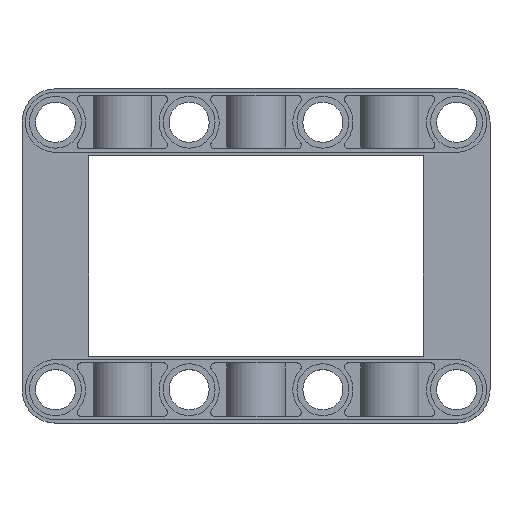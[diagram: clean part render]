
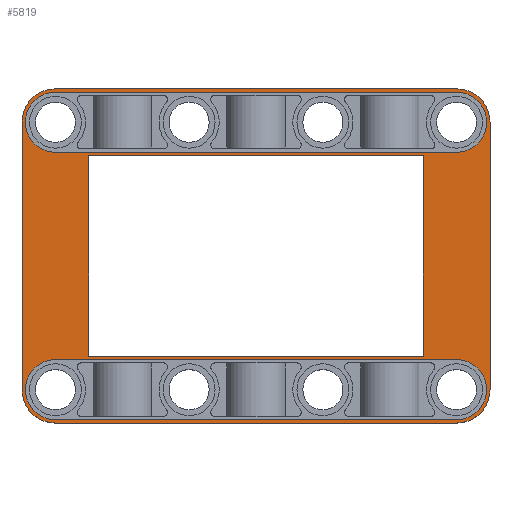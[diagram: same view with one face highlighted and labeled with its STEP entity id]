
A CAD part, top view. The second image highlights one B-rep face of the part: STEP entity #5819.
In plain terms, the highlighted planar face has unit normal (0, 0, 1).
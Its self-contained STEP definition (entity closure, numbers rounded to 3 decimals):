
#134=PLANE('',#6480);
#204=LINE('',#8612,#660);
#468=LINE('',#9739,#924);
#473=LINE('',#9754,#929);
#478=LINE('',#9769,#934);
#481=LINE('',#9777,#937);
#497=LINE('',#9825,#953);
#502=LINE('',#9838,#958);
#506=LINE('',#9853,#962);
#511=LINE('',#9869,#967);
#515=LINE('',#9880,#971);
#524=LINE('',#9895,#980);
#525=LINE('',#9897,#981);
#660=VECTOR('',#6769,1000.);
#924=VECTOR('',#7907,1000.);
#929=VECTOR('',#7920,1000.);
#934=VECTOR('',#7937,1000.);
#937=VECTOR('',#7946,1000.);
#953=VECTOR('',#7998,1000.);
#958=VECTOR('',#8007,1000.);
#962=VECTOR('',#8021,1000.);
#967=VECTOR('',#8040,1000.);
#971=VECTOR('',#8052,1000.);
#980=VECTOR('',#8063,1000.);
#981=VECTOR('',#8064,1000.);
#2145=ORIENTED_EDGE('',*,*,#3309,.T.);
#2146=ORIENTED_EDGE('',*,*,#3306,.T.);
#2147=ORIENTED_EDGE('',*,*,#3302,.T.);
#2148=ORIENTED_EDGE('',*,*,#3312,.T.);
#2149=ORIENTED_EDGE('',*,*,#3317,.T.);
#2150=ORIENTED_EDGE('',*,*,#3314,.T.);
#2151=ORIENTED_EDGE('',*,*,#3321,.T.);
#2152=ORIENTED_EDGE('',*,*,#3319,.T.);
#2153=ORIENTED_EDGE('',*,*,#3380,.F.);
#2154=ORIENTED_EDGE('',*,*,#3343,.F.);
#2155=ORIENTED_EDGE('',*,*,#3371,.F.);
#2156=ORIENTED_EDGE('',*,*,#3381,.F.);
#2157=ORIENTED_EDGE('',*,*,#3367,.T.);
#2158=ORIENTED_EDGE('',*,*,#3349,.T.);
#2159=ORIENTED_EDGE('',*,*,#3353,.T.);
#2160=ORIENTED_EDGE('',*,*,#3356,.T.);
#2161=ORIENTED_EDGE('',*,*,#3359,.T.);
#2162=ORIENTED_EDGE('',*,*,#2778,.T.);
#2163=ORIENTED_EDGE('',*,*,#3362,.T.);
#2164=ORIENTED_EDGE('',*,*,#3365,.T.);
#2778=EDGE_CURVE('',#3579,#3578,#204,.T.);
#3302=EDGE_CURVE('',#4005,#4006,#468,.T.);
#3306=EDGE_CURVE('',#4009,#4005,#4402,.F.);
#3309=EDGE_CURVE('',#4011,#4009,#473,.T.);
#3312=EDGE_CURVE('',#4006,#4011,#4404,.F.);
#3314=EDGE_CURVE('',#4013,#4014,#4406,.F.);
#3317=EDGE_CURVE('',#4015,#4013,#478,.T.);
#3319=EDGE_CURVE('',#4016,#4015,#4407,.F.);
#3321=EDGE_CURVE('',#4014,#4016,#481,.T.);
#3343=EDGE_CURVE('',#4030,#4031,#497,.T.);
#3349=EDGE_CURVE('',#4037,#4036,#502,.T.);
#3353=EDGE_CURVE('',#4036,#4039,#4416,.T.);
#3356=EDGE_CURVE('',#4039,#4041,#506,.T.);
#3359=EDGE_CURVE('',#4041,#3579,#4419,.T.);
#3362=EDGE_CURVE('',#3578,#4044,#4421,.T.);
#3365=EDGE_CURVE('',#4044,#4046,#511,.T.);
#3367=EDGE_CURVE('',#4046,#4037,#4423,.T.);
#3371=EDGE_CURVE('',#4049,#4030,#515,.T.);
#3380=EDGE_CURVE('',#4031,#4055,#524,.T.);
#3381=EDGE_CURVE('',#4055,#4049,#525,.T.);
#3578=VERTEX_POINT('',#8611);
#3579=VERTEX_POINT('',#8613);
#4005=VERTEX_POINT('',#9740);
#4006=VERTEX_POINT('',#9741);
#4009=VERTEX_POINT('',#9749);
#4011=VERTEX_POINT('',#9755);
#4013=VERTEX_POINT('',#9764);
#4014=VERTEX_POINT('',#9765);
#4015=VERTEX_POINT('',#9770);
#4016=VERTEX_POINT('',#9774);
#4030=VERTEX_POINT('',#9824);
#4031=VERTEX_POINT('',#9826);
#4036=VERTEX_POINT('',#9837);
#4037=VERTEX_POINT('',#9839);
#4039=VERTEX_POINT('',#9845);
#4041=VERTEX_POINT('',#9851);
#4044=VERTEX_POINT('',#9862);
#4046=VERTEX_POINT('',#9868);
#4049=VERTEX_POINT('',#9879);
#4055=VERTEX_POINT('',#9896);
#4402=CIRCLE('',#6432,3.6);
#4404=CIRCLE('',#6436,3.6);
#4406=CIRCLE('',#6439,3.6);
#4407=CIRCLE('',#6442,3.6);
#4416=CIRCLE('',#6466,4.);
#4419=CIRCLE('',#6471,4.);
#4421=CIRCLE('',#6474,4.);
#4423=CIRCLE('',#6478,4.);
#4809=EDGE_LOOP('',(#2145,#2146,#2147,#2148));
#4810=EDGE_LOOP('',(#2149,#2150,#2151,#2152));
#4811=EDGE_LOOP('',(#2153,#2154,#2155,#2156));
#4812=EDGE_LOOP('',(#2157,#2158,#2159,#2160,#2161,#2162,#2163,#2164));
#5281=FACE_BOUND('',#4809,.T.);
#5282=FACE_BOUND('',#4810,.T.);
#5283=FACE_BOUND('',#4811,.T.);
#5284=FACE_BOUND('',#4812,.T.);
#5819=ADVANCED_FACE('',(#5281,#5282,#5283,#5284),#134,.T.);
#6432=AXIS2_PLACEMENT_3D('',#9748,#7913,#7914);
#6436=AXIS2_PLACEMENT_3D('',#9760,#7925,#7926);
#6439=AXIS2_PLACEMENT_3D('',#9763,#7931,#7932);
#6442=AXIS2_PLACEMENT_3D('',#9773,#7941,#7942);
#6466=AXIS2_PLACEMENT_3D('',#9846,#8014,#8015);
#6471=AXIS2_PLACEMENT_3D('',#9857,#8027,#8028);
#6474=AXIS2_PLACEMENT_3D('',#9863,#8034,#8035);
#6478=AXIS2_PLACEMENT_3D('',#9872,#8045,#8046);
#6480=AXIS2_PLACEMENT_3D('',#9894,#8061,#8062);
#6769=DIRECTION('',(0.,-1.,0.));
#7907=DIRECTION('',(-1.,0.,0.));
#7913=DIRECTION('',(0.,0.,1.));
#7914=DIRECTION('',(1.,0.,0.));
#7920=DIRECTION('',(1.,0.,0.));
#7925=DIRECTION('',(0.,0.,1.));
#7926=DIRECTION('',(1.,0.,0.));
#7931=DIRECTION('',(0.,0.,1.));
#7932=DIRECTION('',(1.,0.,0.));
#7937=DIRECTION('',(-1.,0.,0.));
#7941=DIRECTION('',(0.,0.,1.));
#7942=DIRECTION('',(1.,0.,0.));
#7946=DIRECTION('',(1.,0.,0.));
#7998=DIRECTION('',(1.,0.,0.));
#8007=DIRECTION('',(0.,1.,0.));
#8014=DIRECTION('',(0.,0.,1.));
#8015=DIRECTION('',(-1.,0.,0.));
#8021=DIRECTION('',(-1.,0.,0.));
#8027=DIRECTION('',(0.,0.,1.));
#8028=DIRECTION('',(1.,0.,0.));
#8034=DIRECTION('',(0.,0.,1.));
#8035=DIRECTION('',(1.,0.,0.));
#8040=DIRECTION('',(1.,0.,0.));
#8045=DIRECTION('',(0.,0.,1.));
#8046=DIRECTION('',(-1.,0.,0.));
#8052=DIRECTION('',(0.,-1.,0.));
#8061=DIRECTION('',(0.,0.,1.));
#8062=DIRECTION('',(1.,0.,0.));
#8063=DIRECTION('',(0.,1.,0.));
#8064=DIRECTION('',(-1.,0.,0.));
#8611=CARTESIAN_POINT('',(-28.,-16.,3.6));
#8612=CARTESIAN_POINT('',(-28.,16.,3.6));
#8613=CARTESIAN_POINT('',(-28.,16.,3.6));
#9739=CARTESIAN_POINT('',(24.,12.4,3.6));
#9740=CARTESIAN_POINT('',(24.,12.4,3.6));
#9741=CARTESIAN_POINT('',(-24.,12.4,3.6));
#9748=CARTESIAN_POINT('',(24.,16.,3.6));
#9749=CARTESIAN_POINT('',(24.,19.6,3.6));
#9754=CARTESIAN_POINT('',(24.,19.6,3.6));
#9755=CARTESIAN_POINT('',(-24.,19.6,3.6));
#9760=CARTESIAN_POINT('',(-24.,16.,3.6));
#9763=CARTESIAN_POINT('',(-24.,-16.,3.6));
#9764=CARTESIAN_POINT('',(-24.,-19.6,3.6));
#9765=CARTESIAN_POINT('',(-24.,-12.4,3.6));
#9769=CARTESIAN_POINT('',(24.,-19.6,3.6));
#9770=CARTESIAN_POINT('',(24.,-19.6,3.6));
#9773=CARTESIAN_POINT('',(24.,-16.,3.6));
#9774=CARTESIAN_POINT('',(24.,-12.4,3.6));
#9777=CARTESIAN_POINT('',(24.,-12.4,3.6));
#9824=CARTESIAN_POINT('',(-20.,-12.,3.6));
#9825=CARTESIAN_POINT('',(-20.,-12.,3.6));
#9826=CARTESIAN_POINT('',(20.,-12.,3.6));
#9837=CARTESIAN_POINT('',(28.,16.,3.6));
#9838=CARTESIAN_POINT('',(28.,-16.,3.6));
#9839=CARTESIAN_POINT('',(28.,-16.,3.6));
#9845=CARTESIAN_POINT('',(24.,20.,3.6));
#9846=CARTESIAN_POINT('',(24.,16.,3.6));
#9851=CARTESIAN_POINT('',(-24.,20.,3.6));
#9853=CARTESIAN_POINT('',(24.,20.,3.6));
#9857=CARTESIAN_POINT('',(-24.,16.,3.6));
#9862=CARTESIAN_POINT('',(-24.,-20.,3.6));
#9863=CARTESIAN_POINT('',(-24.,-16.,3.6));
#9868=CARTESIAN_POINT('',(24.,-20.,3.6));
#9869=CARTESIAN_POINT('',(-24.,-20.,3.6));
#9872=CARTESIAN_POINT('',(24.,-16.,3.6));
#9879=CARTESIAN_POINT('',(-20.,12.,3.6));
#9880=CARTESIAN_POINT('',(-20.,12.,3.6));
#9894=CARTESIAN_POINT('',(24.,-16.,3.6));
#9895=CARTESIAN_POINT('',(20.,-12.,3.6));
#9896=CARTESIAN_POINT('',(20.,12.,3.6));
#9897=CARTESIAN_POINT('',(20.,12.,3.6));
